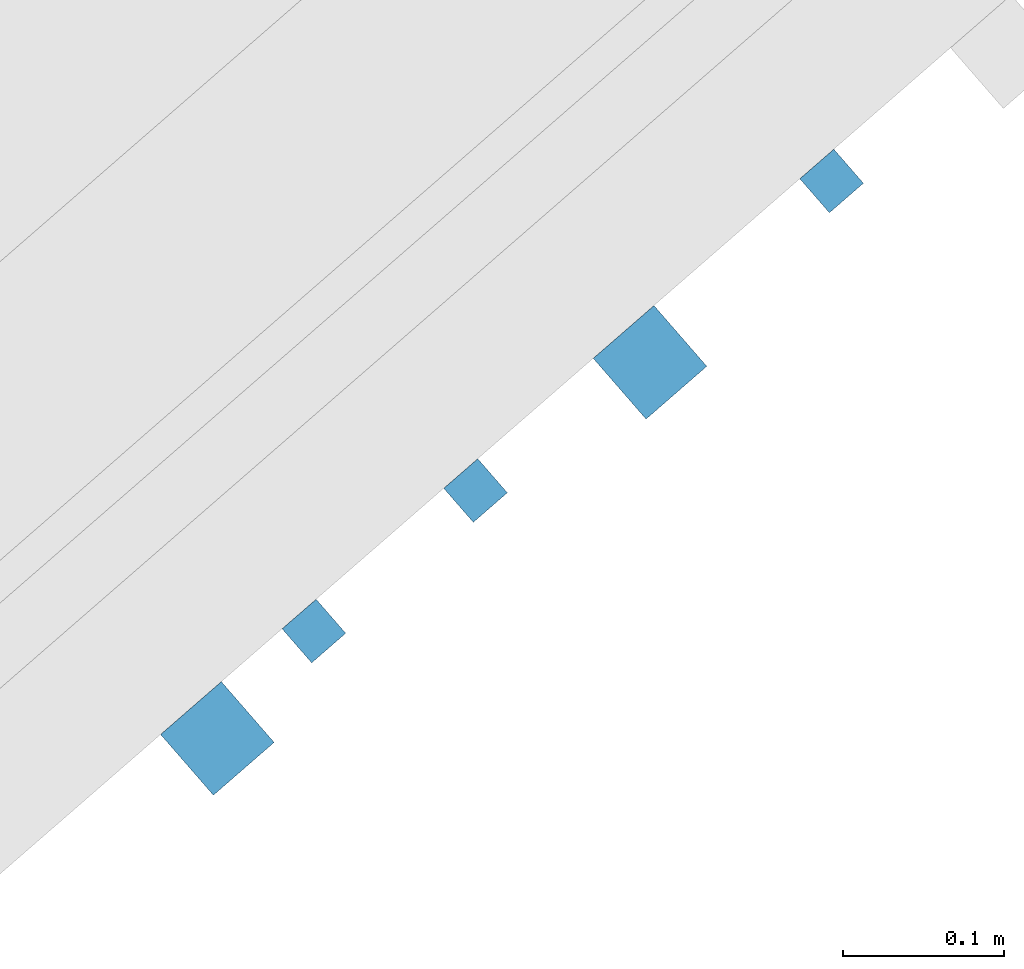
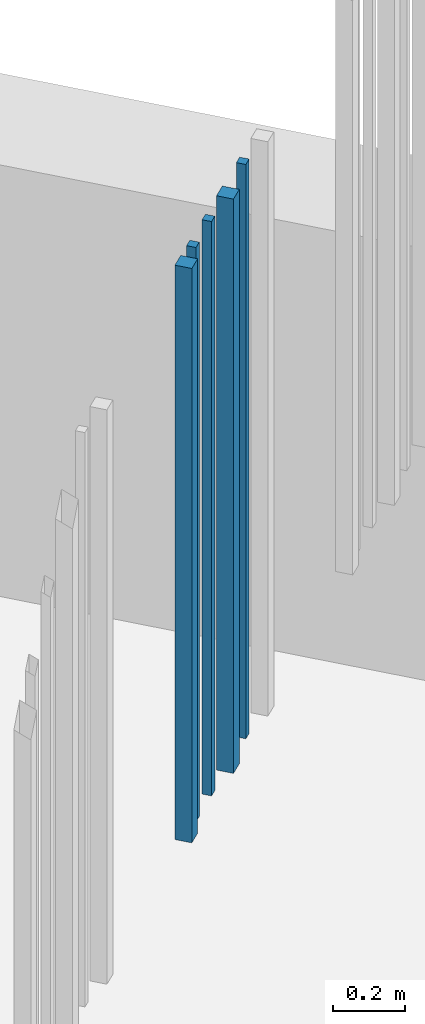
# One storey, part 72 of 124: 5 walls.
"""IFC2X3 building model written with IfcOpenShell, lengths in millimetres."""

from ifc_helpers import new_model, entity, si_unit, converted_unit, derived_unit, money_unit, direction, frame, origin_with_axes, place, context, subcontext, project, spatial, faceted_brep, material, type_object, element, save


model = new_model("IFC2X3")

# Units and contexts
model_context = context("Model", 3, precision=1e-05, world=origin_with_axes(), true_north=direction((0.0, 1.0)))
body_context = subcontext(model_context, "Body", "Model", "MODEL_VIEW")
ifc_project = project(units=[si_unit("LENGTHUNIT", "METRE", prefix="MILLI"), si_unit("AREAUNIT", "SQUARE_METRE"), si_unit("VOLUMEUNIT", "CUBIC_METRE"), converted_unit("PLANEANGLEUNIT", "DEGREE", entity("IfcPlaneAngleMeasure", 0.0174532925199), si_unit("PLANEANGLEUNIT", "RADIAN"), dimensions=[0, 0, 0, 0, 0, 0, 0]), si_unit("SOLIDANGLEUNIT", "STERADIAN"), money_unit("EUR"), converted_unit("TIMEUNIT", "Year", entity("IfcTimeMeasure", 31556926.0), si_unit("TIMEUNIT", "SECOND"), dimensions=[0, 0, 1, 0, 0, 0, 0]), si_unit("MASSUNIT", "GRAM", prefix="KILO"), si_unit("THERMODYNAMICTEMPERATUREUNIT", "DEGREE_CELSIUS"), si_unit("LUMINOUSINTENSITYUNIT", "LUMEN"), si_unit("ENERGYUNIT", "JOULE", prefix="MEGA"), derived_unit("THERMALCONDUCTANCEUNIT", [(si_unit("POWERUNIT", "WATT"), 1), (si_unit("LENGTHUNIT", "METRE"), -1), (si_unit("THERMODYNAMICTEMPERATUREUNIT", "KELVIN"), -1)]), derived_unit("SPECIFICHEATCAPACITYUNIT", [(si_unit("ENERGYUNIT", "JOULE"), 1), (si_unit("MASSUNIT", "GRAM", prefix="KILO"), -1), (si_unit("THERMODYNAMICTEMPERATUREUNIT", "KELVIN"), -1)]), derived_unit("MASSDENSITYUNIT", [(si_unit("MASSUNIT", "GRAM", prefix="KILO"), 1), (si_unit("VOLUMEUNIT", "CUBIC_METRE"), -1)])], contexts=[model_context])

# Site, building, storey
site_placement = place(None, origin_with_axes())
site = spatial("IfcSite", under=ifc_project, at=site_placement, Name="Site", CompositionType="ELEMENT")
building_placement = place(site_placement, origin_with_axes())
building = spatial("IfcBuilding", under=site, at=building_placement, Name="Building", CompositionType="ELEMENT")
storey_placement = place(building_placement, frame((0.0, 0.0, -1615.0), z_axis=(0.0, 0.0, 1.0), x_axis=(1.0, 0.0, 0.0)))
storey = spatial("IfcBuildingStorey", under=building, at=storey_placement, Name="0  korrus", CompositionType="ELEMENT", Elevation=-1615.0)

# Walls
ifc_material = material(Name="Site specified")
wall_type = type_object("IfcWallType", Name="Puitfassaadi ribistik", PredefinedType="NOTDEFINED")
for number, where, z_axis, x_axis, name in (
    (1, (168905.693804, 91472.6713649, 9530.0), (0.0, 0.0, 1.0), (-0.754709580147, -0.656059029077, 0.0), "Site specified"),
    (2, (168584.187546, 91193.1902381, 9530.0), (0.0, 0.0, 1.0), (-0.754709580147, -0.656059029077, 0.0), "Site specified"),
    (3, (168684.563919, 91280.4460884, 9530.0), (0.0, 0.0, 1.0), (-0.754709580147, -0.656059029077, 0.0), "Site specified"),
):
    element("IfcWall", number, at=place(storey_placement, frame(where, z_axis=z_axis, x_axis=x_axis)), inside=storey, type_object=wall_type, material=ifc_material, Name=name, context=body_context, shape_type="Brep", body=[
        faceted_brep([(14.0, 14.0, 1950.0), (14.0, 14.0, 0.0), (-14.0, 14.0, 0.0), (-14.0, 14.0, 1950.0), (14.0, -14.0, 1950.0), (14.0, -14.0, 0.0), (-14.0, -14.0, 0.0), (-14.0, -14.0, 1950.0)], [[[0, 1, 2, 3]], [[4, 5, 1, 0]], [[2, 1, 5, 6]], [[3, 2, 6, 7]], [[4, 0, 3, 7]], [[7, 6, 5, 4]]]),
    ])
for number, where, z_axis, x_axis, name in (
    (4, (168524.23265, 91126.4970991, 9530.0), (0.0, 0.0, 1.0), (-0.754709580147, -0.656059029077, 0.0), "Site specified"),
    (5, (168792.913512, 91360.0578092, 9530.0), (0.0, 0.0, 1.0), (-0.754709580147, -0.656059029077, 0.0), "Site specified"),
):
    element("IfcWall", number, at=place(storey_placement, frame(where, z_axis=z_axis, x_axis=x_axis)), inside=storey, type_object=wall_type, material=ifc_material, Name=name, context=body_context, shape_type="Brep", body=[
        faceted_brep([(25.0, 25.0, 1950.0), (25.0, 25.0, 0.0), (-25.0, 25.0, 0.0), (-25.0, 25.0, 1950.0), (25.0, -25.0, 1950.0), (25.0, -25.0, 0.0), (-25.0, -25.0, 0.0), (-25.0, -25.0, 1950.0)], [[[0, 1, 2, 3]], [[4, 5, 1, 0]], [[2, 1, 5, 6]], [[3, 2, 6, 7]], [[4, 0, 3, 7]], [[7, 6, 5, 4]]]),
    ])

save(model, "model.ifc")
